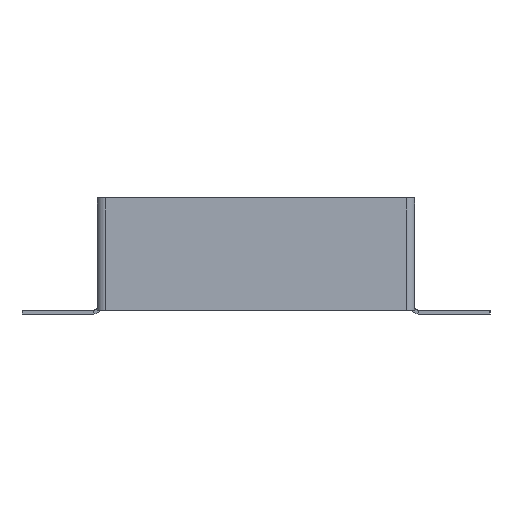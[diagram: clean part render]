
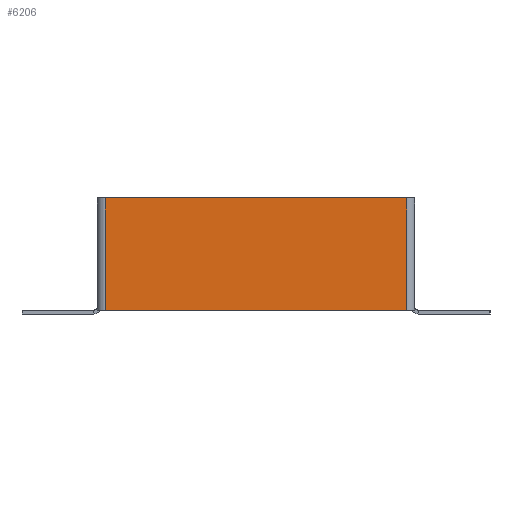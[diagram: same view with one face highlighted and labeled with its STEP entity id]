
A CAD part, front view. The second image highlights one B-rep face of the part: STEP entity #6206.
In plain terms, the highlighted planar face has unit normal (0, -1, 0).
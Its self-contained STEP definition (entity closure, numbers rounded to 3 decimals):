
#112 = VERTEX_POINT ( 'NONE', #2474 ) ;
#121 = EDGE_CURVE ( 'NONE', #112, #5062, #4117, .T. ) ;
#185 = LINE ( 'NONE', #1298, #1576 ) ;
#287 = DIRECTION ( 'NONE',  ( 0., 0., 1. ) ) ;
#1017 = EDGE_LOOP ( 'NONE', ( #3339, #1670, #3656, #6298 ) ) ;
#1188 = VECTOR ( 'NONE', #4690, 1000. ) ;
#1298 = CARTESIAN_POINT ( 'NONE',  ( -80., -2., 0. ) ) ;
#1335 = CARTESIAN_POINT ( 'NONE',  ( 78., -2., -58. ) ) ;
#1576 = VECTOR ( 'NONE', #4442, 1000. ) ;
#1624 = FACE_OUTER_BOUND ( 'NONE', #1017, .T. ) ;
#1670 = ORIENTED_EDGE ( 'NONE', *, *, #121, .F. ) ;
#1672 = CARTESIAN_POINT ( 'NONE',  ( -78., -2., -58. ) ) ;
#1828 = VERTEX_POINT ( 'NONE', #6184 ) ;
#2474 = CARTESIAN_POINT ( 'NONE',  ( 78., -2., -58. ) ) ;
#3059 = EDGE_CURVE ( 'NONE', #1828, #4235, #185, .T. ) ;
#3128 = CARTESIAN_POINT ( 'NONE',  ( -78., -2., 0. ) ) ;
#3339 = ORIENTED_EDGE ( 'NONE', *, *, #5360, .T. ) ;
#3544 = CARTESIAN_POINT ( 'NONE',  ( 0., -2., 0. ) ) ;
#3656 = ORIENTED_EDGE ( 'NONE', *, *, #3670, .T. ) ;
#3670 = EDGE_CURVE ( 'NONE', #112, #4235, #5829, .T. ) ;
#3869 = VECTOR ( 'NONE', #5130, 1000. ) ;
#4024 = CARTESIAN_POINT ( 'NONE',  ( 78., -2., 0. ) ) ;
#4091 = DIRECTION ( 'NONE',  ( 0., 0., 1. ) ) ;
#4117 = LINE ( 'NONE', #5107, #3869 ) ;
#4235 = VERTEX_POINT ( 'NONE', #4024 ) ;
#4268 = VECTOR ( 'NONE', #287, 1000. ) ;
#4442 = DIRECTION ( 'NONE',  ( 1., 0., 0. ) ) ;
#4690 = DIRECTION ( 'NONE',  ( 0., 0., -1. ) ) ;
#5062 = VERTEX_POINT ( 'NONE', #1672 ) ;
#5107 = CARTESIAN_POINT ( 'NONE',  ( -80., -2., -58. ) ) ;
#5130 = DIRECTION ( 'NONE',  ( -1., 0., 0. ) ) ;
#5360 = EDGE_CURVE ( 'NONE', #1828, #5062, #5622, .T. ) ;
#5622 = LINE ( 'NONE', #3128, #1188 ) ;
#5829 = LINE ( 'NONE', #1335, #4268 ) ;
#6184 = CARTESIAN_POINT ( 'NONE',  ( -78., -2., 0. ) ) ;
#6190 = DIRECTION ( 'NONE',  ( 0., 1., 0. ) ) ;
#6206 = ADVANCED_FACE ( 'NONE', ( #1624 ), #6211, .F. ) ;
#6211 = PLANE ( 'NONE',  #6756 ) ;
#6298 = ORIENTED_EDGE ( 'NONE', *, *, #3059, .F. ) ;
#6756 = AXIS2_PLACEMENT_3D ( 'NONE', #3544, #6190, #4091 ) ;
